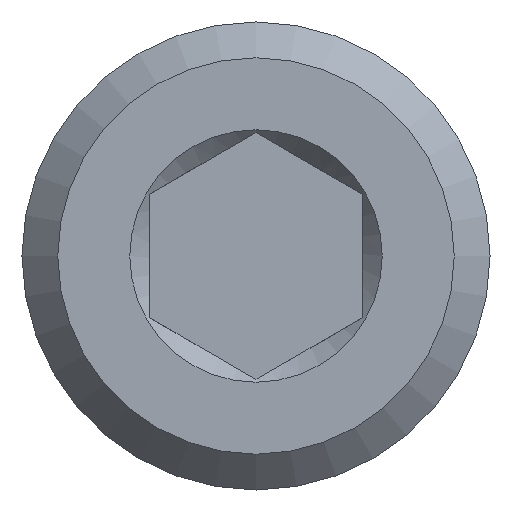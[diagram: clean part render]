
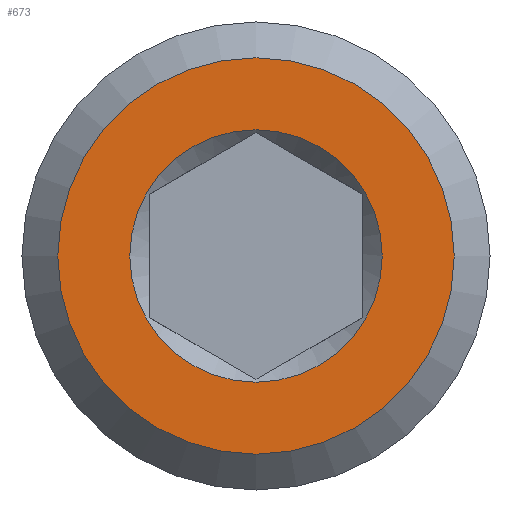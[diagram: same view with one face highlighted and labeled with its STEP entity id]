
A CAD part, front view. The second image highlights one B-rep face of the part: STEP entity #673.
In plain terms, the highlighted planar face has unit normal (0, -1, 0).
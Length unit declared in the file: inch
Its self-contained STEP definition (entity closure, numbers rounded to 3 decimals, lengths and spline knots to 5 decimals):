
#15=FACE_BOUND('',#156,.T.);
#53=PLANE('',#740);
#75=CIRCLE('',#739,0.221);
#76=CIRCLE('',#741,0.347);
#116=FACE_OUTER_BOUND('',#155,.T.);
#155=EDGE_LOOP('',(#583));
#156=EDGE_LOOP('',(#584));
#329=VERTEX_POINT('',#1876);
#330=VERTEX_POINT('',#1880);
#424=EDGE_CURVE('',#329,#329,#75,.T.);
#425=EDGE_CURVE('',#330,#330,#76,.T.);
#583=ORIENTED_EDGE('',*,*,#425,.F.);
#584=ORIENTED_EDGE('',*,*,#424,.F.);
#673=ADVANCED_FACE('',(#116,#15),#53,.T.);
#739=AXIS2_PLACEMENT_3D('',#1878,#888,#889);
#740=AXIS2_PLACEMENT_3D('',#1879,#890,#891);
#741=AXIS2_PLACEMENT_3D('',#1881,#892,#893);
#888=DIRECTION('center_axis',(0.,-1.,0.));
#889=DIRECTION('ref_axis',(0.,0.,1.));
#890=DIRECTION('center_axis',(0.,-1.,0.));
#891=DIRECTION('ref_axis',(0.,0.,-1.));
#892=DIRECTION('center_axis',(0.,1.,0.));
#893=DIRECTION('ref_axis',(0.,0.,1.));
#1876=CARTESIAN_POINT('',(0.,0.,-0.221));
#1878=CARTESIAN_POINT('Origin',(0.,0.,0.));
#1879=CARTESIAN_POINT('Origin',(0.,0.,-0.186));
#1880=CARTESIAN_POINT('',(0.,0.,-0.347));
#1881=CARTESIAN_POINT('Origin',(0.,0.,0.));
